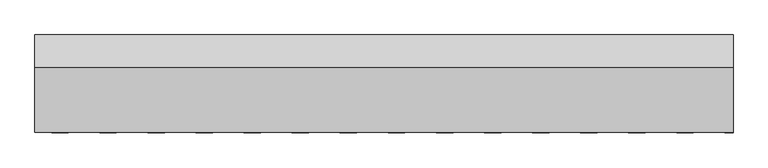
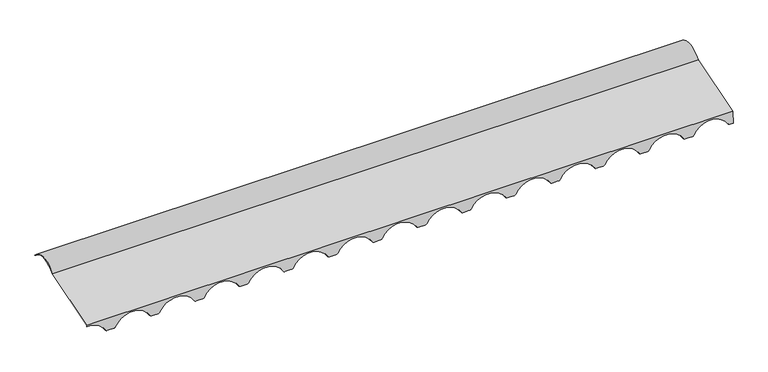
"""IFC4 building model written with IfcOpenShell, lengths in millimetres: proxy geometry, H20.F20.003-B-REMATES TEJA-Cumbrera Troquelada : Cumbrera Troquelada Teja."""

from ifc_helpers import new_model, si_unit, point, frame, origin, place, context, project, spatial, polyline, circle_curve, ellipse_curve, trimmed, source, transform, mapped, element, save
from ifc_brep_helpers import plane_surface, cylinder_surface, revolved_surface, extruded_surface, advanced_brep


def generic_models_877061e0(model_context):
    return source(origin(), model_context, "Body", "AdvancedBrep", [
        advanced_brep(
        [(2500.0, -281.4033726, -80.897882), (2500.0, -57.2523162, -12.3680268), (2500.0, 52.9905575, -6.8731021), (2500.0, 54.2044834, -5.8308046), (2500.0, -58.2444748, -10.9982533), (2500.0, -282.9425462, -79.6953478), (2500.0, -285.2976643, -124.6336769), (2500.0, -283.699857, -124.7174144), (80.0, -281.4033726, -80.897882), (80.0, -57.2523162, -12.3680268), (80.0, 52.9905575, -6.8731021), (80.0, 54.2044834, -5.8308046), (80.0, -58.2444748, -10.9982533), (80.0, -282.9425462, -79.6953478), (80.0, -283.1883269, -84.3851221), (147.7180237, -285.0927503, -120.7236858), (154.6321739, -285.2976643, -124.6336769), (178.6878261, -285.2976643, -124.6336769), (185.6019763, -285.0927503, -120.7236858), (314.3780237, -285.0927503, -120.7236858), (321.2921739, -285.2976643, -124.6336769), (345.3478261, -285.2976643, -124.6336769), (352.2619763, -285.0927503, -120.7236858), (481.0380237, -285.0927503, -120.7236858), (487.9521739, -285.2976643, -124.6336769), (512.0078261, -285.2976643, -124.6336769), (518.9219763, -285.0927503, -120.7236858), (647.6980237, -285.0927503, -120.7236858), (654.6121739, -285.2976643, -124.6336769), (678.6678261, -285.2976643, -124.6336769), (685.5819763, -285.0927503, -120.7236858), (814.3580237, -285.0927503, -120.7236858), (821.2721739, -285.2976643, -124.6336769), (845.3278261, -285.2976643, -124.6336769), (852.2419763, -285.0927503, -120.7236858), (981.0180237, -285.0927503, -120.7236858), (987.9321739, -285.2976643, -124.6336769), (1011.9878261, -285.2976643, -124.6336769), (1018.9019763, -285.0927503, -120.7236858), (1147.6780237, -285.0927503, -120.7236858), (1154.5921739, -285.2976643, -124.6336769), (1178.6478261, -285.2976643, -124.6336769), (1185.5619763, -285.0927503, -120.7236858), (1314.3380237, -285.0927503, -120.7236858), (1321.2521739, -285.2976643, -124.6336769), (1345.3078261, -285.2976643, -124.6336769), (1352.2219763, -285.0927503, -120.7236858), (1480.9980237, -285.0927503, -120.7236858), (1487.9121739, -285.2976643, -124.6336769), (1511.9678261, -285.2976643, -124.6336769), (1518.8819763, -285.0927503, -120.7236858), (1647.6580237, -285.0927503, -120.7236858), (1654.5721739, -285.2976643, -124.6336769), (1678.6278261, -285.2976643, -124.6336769), (1685.5419763, -285.0927503, -120.7236858), (1814.3180237, -285.0927503, -120.7236858), (1821.2321739, -285.2976643, -124.6336769), (1845.2878261, -285.2976643, -124.6336769), (1852.2019763, -285.0927503, -120.7236858), (1980.9780237, -285.0927503, -120.7236858), (1987.8921739, -285.2976643, -124.6336769), (2011.9478261, -285.2976643, -124.6336769), (2018.8619763, -285.0927503, -120.7236858), (2147.6380237, -285.0927503, -120.7236858), (2154.5521739, -285.2976643, -124.6336769), (2178.6078261, -285.2976643, -124.6336769), (2185.5219763, -285.0927503, -120.7236858), (2314.2980237, -285.0927503, -120.7236858), (2321.2121739, -285.2976643, -124.6336769), (2345.2678261, -285.2976643, -124.6336769), (2352.1819763, -285.0927503, -120.7236858), (2480.9580237, -285.0927503, -120.7236858), (2487.8721739, -285.2976643, -124.6336769), (2487.8721739, -283.699857, -124.7174144), (154.6321739, -283.699857, -124.7174144), (178.6878261, -283.699857, -124.7174144), (321.2921739, -283.699857, -124.7174144), (345.3478261, -283.699857, -124.7174144), (487.9521739, -283.699857, -124.7174144), (512.0078261, -283.699857, -124.7174144), (654.6121739, -283.699857, -124.7174144), (678.6678261, -283.699857, -124.7174144), (821.2721739, -283.699857, -124.7174144), (845.3278261, -283.699857, -124.7174144), (987.9321739, -283.699857, -124.7174144), (1011.9878261, -283.699857, -124.7174144), (1154.5921739, -283.699857, -124.7174144), (1178.6478261, -283.699857, -124.7174144), (1321.2521739, -283.699857, -124.7174144), (1345.3078261, -283.699857, -124.7174144), (1487.9121739, -283.699857, -124.7174144), (1511.9678261, -283.699857, -124.7174144), (1654.5721739, -283.699857, -124.7174144), (1678.6278261, -283.699857, -124.7174144), (1821.2321739, -283.699857, -124.7174144), (1845.2878261, -283.699857, -124.7174144), (1987.8921739, -283.699857, -124.7174144), (2011.9478261, -283.699857, -124.7174144), (2154.5521739, -283.699857, -124.7174144), (2178.6078261, -283.699857, -124.7174144), (2321.2121739, -283.699857, -124.7174144), (2345.2678261, -283.699857, -124.7174144), (2480.9580237, -283.494943, -120.8074234), (2352.1819763, -283.494943, -120.8074234), (2314.2980237, -283.494943, -120.8074234), (2185.5219763, -283.494943, -120.8074234), (2147.6380237, -283.494943, -120.8074234), (2018.8619763, -283.494943, -120.8074234), (1980.9780237, -283.494943, -120.8074234), (1852.2019763, -283.494943, -120.8074234), (1814.3180237, -283.494943, -120.8074234), (1685.5419763, -283.494943, -120.8074234), (1647.6580237, -283.494943, -120.8074234), (1518.8819763, -283.494943, -120.8074234), (1480.9980237, -283.494943, -120.8074234), (1352.2219763, -283.494943, -120.8074234), (1314.3380237, -283.494943, -120.8074234), (1185.5619763, -283.494943, -120.8074234), (1147.6780237, -283.494943, -120.8074234), (1018.9019763, -283.494943, -120.8074234), (981.0180237, -283.494943, -120.8074234), (852.2419763, -283.494943, -120.8074234), (814.3580237, -283.494943, -120.8074234), (685.5819763, -283.494943, -120.8074234), (647.6980237, -283.494943, -120.8074234), (518.9219763, -283.494943, -120.8074234), (481.0380237, -283.494943, -120.8074234), (352.2619763, -283.494943, -120.8074234), (314.3780237, -283.494943, -120.8074234), (185.6019763, -283.494943, -120.8074234), (147.7180237, -283.494943, -120.8074234), (80.0, -281.5905196, -84.4688596)],
        [
            (0, 1),
            (1, 2, circle_curve(frame((2500.0, 0.0, -52.3716984), z_axis=(-1.0, 0.0, 0.0), x_axis=(0.0, -1.0, 0.0)), 69.8435498)),
            (2, 3),
            (3, 4, circle_curve(frame((2500.0, 0.0, -52.3716984), z_axis=(1.0, 0.0, 0.0), x_axis=(0.0, -1.0, 0.0)), 71.4435498)),
            (4, 5),
            (5, 6),
            (6, 7),
            (7, 0),
            (0, 8),
            (8, 9),
            (9, 1),
            (9, 10, circle_curve(frame((80.0, 0.0, -52.3716984), z_axis=(-1.0, 0.0, 0.0), x_axis=(0.0, -1.0, 0.0)), 69.8435498)),
            (10, 2),
            (10, 11),
            (11, 3),
            (11, 12, circle_curve(frame((80.0, 0.0, -52.3716984), z_axis=(1.0, 0.0, 0.0), x_axis=(0.0, -1.0, 0.0)), 71.4435498)),
            (12, 4),
            (12, 13),
            (13, 5),
            (13, 14),
            (14, 15, ellipse_curve(frame((83.33, -287.0242829, -157.5795235), z_axis=(0.0, 0.998629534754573, -0.052335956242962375), x_axis=(1.0, 0.0, 0.0)), 74.5, 73.3681776)),
            (15, 16, ellipse_curve(frame((154.6321739, -284.8853374, -116.766012), z_axis=(0.0, -0.998629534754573, 0.052335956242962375), x_axis=(1.0, 0.0, 0.0)), 8.0, 7.878462)),
            (16, 17),
            (17, 18, ellipse_curve(frame((178.6878261, -284.8853374, -116.766012), z_axis=(0.0, -0.998629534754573, 0.052335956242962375), x_axis=(1.0, 0.0, 0.0)), 8.0, 7.878462)),
            (18, 19, ellipse_curve(frame((249.99, -287.0242829, -157.5795235), z_axis=(0.0, 0.998629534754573, -0.052335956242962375), x_axis=(1.0, 0.0, 0.0)), 74.5, 73.3681776)),
            (19, 20, ellipse_curve(frame((321.2921739, -284.8853374, -116.766012), z_axis=(0.0, -0.998629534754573, 0.0523359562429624), x_axis=(1.0, 0.0, 0.0)), 8.0, 7.878462)),
            (20, 21),
            (21, 22, ellipse_curve(frame((345.3478261, -284.8853374, -116.766012), z_axis=(0.0, -0.998629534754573, 0.052335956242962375), x_axis=(1.0, 0.0, 0.0)), 8.0, 7.878462)),
            (22, 23, ellipse_curve(frame((416.65, -287.0242829, -157.5795235), z_axis=(0.0, 0.998629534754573, -0.052335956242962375), x_axis=(1.0, 0.0, 0.0)), 74.5, 73.3681776)),
            (23, 24, ellipse_curve(frame((487.9521739, -284.8853374, -116.766012), z_axis=(0.0, -0.998629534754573, 0.052335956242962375), x_axis=(1.0, 0.0, 0.0)), 8.0, 7.878462)),
            (24, 25),
            (25, 26, ellipse_curve(frame((512.0078261, -284.8853374, -116.766012), z_axis=(0.0, -0.998629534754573, 0.052335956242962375), x_axis=(1.0, 0.0, 0.0)), 8.0, 7.878462)),
            (26, 27, ellipse_curve(frame((583.31, -287.0242829, -157.5795235), z_axis=(0.0, 0.998629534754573, -0.052335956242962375), x_axis=(1.0, 0.0, 0.0)), 74.5, 73.3681776)),
            (27, 28, ellipse_curve(frame((654.6121739, -284.8853374, -116.766012), z_axis=(0.0, -0.998629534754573, 0.052335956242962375), x_axis=(1.0, 0.0, 0.0)), 8.0, 7.878462)),
            (28, 29),
            (29, 30, ellipse_curve(frame((678.6678261, -284.8853374, -116.766012), z_axis=(0.0, -0.998629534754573, 0.052335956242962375), x_axis=(1.0, 0.0, 0.0)), 8.0, 7.878462)),
            (30, 31, ellipse_curve(frame((749.97, -287.0242829, -157.5795235), z_axis=(0.0, 0.998629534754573, -0.052335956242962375), x_axis=(1.0, 0.0, 0.0)), 74.5, 73.3681776)),
            (31, 32, ellipse_curve(frame((821.2721739, -284.8853374, -116.766012), z_axis=(0.0, -0.998629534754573, 0.052335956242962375), x_axis=(1.0, 0.0, 0.0)), 8.0, 7.878462)),
            (32, 33),
            (33, 34, ellipse_curve(frame((845.3278261, -284.8853374, -116.766012), z_axis=(0.0, -0.998629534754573, 0.052335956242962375), x_axis=(1.0, 0.0, 0.0)), 8.0, 7.878462)),
            (34, 35, ellipse_curve(frame((916.63, -287.0242829, -157.5795235), z_axis=(0.0, 0.998629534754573, -0.052335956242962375), x_axis=(1.0, 0.0, 0.0)), 74.5, 73.3681776)),
            (35, 36, ellipse_curve(frame((987.9321739, -284.8853374, -116.766012), z_axis=(0.0, -0.998629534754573, 0.052335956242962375), x_axis=(1.0, 0.0, 0.0)), 8.0, 7.878462)),
            (36, 37),
            (37, 38, ellipse_curve(frame((1011.9878261, -284.8853374, -116.766012), z_axis=(0.0, -0.998629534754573, 0.052335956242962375), x_axis=(1.0, 0.0, 0.0)), 8.0, 7.878462)),
            (38, 39, ellipse_curve(frame((1083.29, -287.0242829, -157.5795235), z_axis=(0.0, 0.998629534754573, -0.0523359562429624), x_axis=(1.0, 0.0, 0.0)), 74.5, 73.3681776)),
            (39, 40, ellipse_curve(frame((1154.5921739, -284.8853374, -116.766012), z_axis=(0.0, -0.998629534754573, 0.052335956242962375), x_axis=(1.0, 0.0, 0.0)), 8.0, 7.878462)),
            (40, 41),
            (41, 42, ellipse_curve(frame((1178.6478261, -284.8853374, -116.766012), z_axis=(0.0, -0.998629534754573, 0.052335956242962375), x_axis=(1.0, 0.0, 0.0)), 8.0, 7.878462)),
            (42, 43, ellipse_curve(frame((1249.95, -287.0242829, -157.5795235), z_axis=(0.0, 0.998629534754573, -0.052335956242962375), x_axis=(1.0, 0.0, 0.0)), 74.5, 73.3681776)),
            (43, 44, ellipse_curve(frame((1321.2521739, -284.8853374, -116.766012), z_axis=(0.0, -0.998629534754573, 0.05233595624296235), x_axis=(1.0, 0.0, 0.0)), 8.0, 7.878462)),
            (44, 45),
            (45, 46, ellipse_curve(frame((1345.3078261, -284.8853374, -116.766012), z_axis=(0.0, -0.998629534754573, 0.052335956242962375), x_axis=(1.0, 0.0, 0.0)), 8.0, 7.878462)),
            (46, 47, ellipse_curve(frame((1416.61, -287.0242829, -157.5795235), z_axis=(0.0, 0.998629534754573, -0.052335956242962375), x_axis=(1.0, 0.0, 0.0)), 74.5, 73.3681776)),
            (47, 48, ellipse_curve(frame((1487.9121739, -284.8853374, -116.766012), z_axis=(0.0, -0.998629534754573, 0.0523359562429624), x_axis=(1.0, 0.0, 0.0)), 8.0, 7.878462)),
            (48, 49),
            (49, 50, ellipse_curve(frame((1511.9678261, -284.8853374, -116.766012), z_axis=(0.0, -0.998629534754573, 0.052335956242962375), x_axis=(1.0, 0.0, 0.0)), 8.0, 7.878462)),
            (50, 51, ellipse_curve(frame((1583.27, -287.0242829, -157.5795235), z_axis=(0.0, 0.998629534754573, -0.052335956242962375), x_axis=(1.0, 0.0, 0.0)), 74.5, 73.3681776)),
            (51, 52, ellipse_curve(frame((1654.5721739, -284.8853374, -116.766012), z_axis=(0.0, -0.998629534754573, 0.052335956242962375), x_axis=(1.0, 0.0, 0.0)), 8.0, 7.878462)),
            (52, 53),
            (53, 54, ellipse_curve(frame((1678.6278261, -284.8853374, -116.766012), z_axis=(0.0, -0.998629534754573, 0.052335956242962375), x_axis=(1.0, 0.0, 0.0)), 8.0, 7.878462)),
            (54, 55, ellipse_curve(frame((1749.93, -287.0242829, -157.5795235), z_axis=(0.0, 0.998629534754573, -0.052335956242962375), x_axis=(1.0, 0.0, 0.0)), 74.5, 73.3681776)),
            (55, 56, ellipse_curve(frame((1821.2321739, -284.8853374, -116.766012), z_axis=(0.0, -0.998629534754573, 0.052335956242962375), x_axis=(1.0, 0.0, 0.0)), 8.0, 7.878462)),
            (56, 57),
            (57, 58, ellipse_curve(frame((1845.2878261, -284.8853374, -116.766012), z_axis=(0.0, -0.998629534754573, 0.05233595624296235), x_axis=(1.0, 0.0, 0.0)), 8.0, 7.878462)),
            (58, 59, ellipse_curve(frame((1916.59, -287.0242829, -157.5795235), z_axis=(0.0, 0.998629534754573, -0.052335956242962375), x_axis=(1.0, 0.0, 0.0)), 74.5, 73.3681776)),
            (59, 60, ellipse_curve(frame((1987.8921739, -284.8853374, -116.766012), z_axis=(0.0, -0.998629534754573, 0.05233595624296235), x_axis=(1.0, 0.0, 0.0)), 8.0, 7.878462)),
            (60, 61),
            (61, 62, ellipse_curve(frame((2011.9478261, -284.8853374, -116.766012), z_axis=(0.0, -0.998629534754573, 0.052335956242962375), x_axis=(1.0, 0.0, 0.0)), 8.0, 7.878462)),
            (62, 63, ellipse_curve(frame((2083.25, -287.0242829, -157.5795235), z_axis=(0.0, 0.998629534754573, -0.052335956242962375), x_axis=(1.0, 0.0, 0.0)), 74.5, 73.3681776)),
            (63, 64, ellipse_curve(frame((2154.5521739, -284.8853374, -116.766012), z_axis=(0.0, -0.998629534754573, 0.0523359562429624), x_axis=(1.0, 0.0, 0.0)), 8.0, 7.878462)),
            (64, 65),
            (65, 66, ellipse_curve(frame((2178.6078261, -284.8853374, -116.766012), z_axis=(0.0, -0.998629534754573, 0.052335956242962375), x_axis=(1.0, 0.0, 0.0)), 8.0, 7.878462)),
            (66, 67, ellipse_curve(frame((2249.91, -287.0242829, -157.5795235), z_axis=(0.0, 0.998629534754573, -0.052335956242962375), x_axis=(1.0, 0.0, 0.0)), 74.5, 73.3681776)),
            (67, 68, ellipse_curve(frame((2321.2121739, -284.8853374, -116.766012), z_axis=(0.0, -0.998629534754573, 0.052335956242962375), x_axis=(1.0, 0.0, 0.0)), 8.0, 7.878462)),
            (68, 69),
            (69, 70, ellipse_curve(frame((2345.2678261, -284.8853374, -116.766012), z_axis=(0.0, -0.998629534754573, 0.052335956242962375), x_axis=(1.0, 0.0, 0.0)), 8.0, 7.878462)),
            (70, 71, ellipse_curve(frame((2416.57, -287.0242829, -157.5795235), z_axis=(0.0, 0.998629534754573, -0.052335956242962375), x_axis=(1.0, 0.0, 0.0)), 74.5, 73.3681776)),
            (71, 72, ellipse_curve(frame((2487.8721739, -284.8853374, -116.766012), z_axis=(0.0, -0.998629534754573, 0.052335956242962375), x_axis=(1.0, 0.0, 0.0)), 8.0, 7.878462)),
            (72, 6),
            (72, 73),
            (73, 7),
            (16, 74),
            (74, 75),
            (75, 17),
            (20, 76),
            (76, 77),
            (77, 21),
            (24, 78),
            (78, 79),
            (79, 25),
            (28, 80),
            (80, 81),
            (81, 29),
            (32, 82),
            (82, 83),
            (83, 33),
            (36, 84),
            (84, 85),
            (85, 37),
            (40, 86),
            (86, 87),
            (87, 41),
            (44, 88),
            (88, 89),
            (89, 45),
            (48, 90),
            (90, 91),
            (91, 49),
            (52, 92),
            (92, 93),
            (93, 53),
            (56, 94),
            (94, 95),
            (95, 57),
            (60, 96),
            (96, 97),
            (97, 61),
            (64, 98),
            (98, 99),
            (99, 65),
            (68, 100),
            (100, 101),
            (101, 69),
            (73, 102, ellipse_curve(frame((2487.8721739, -283.2875302, -116.8497495), z_axis=(0.0, 0.998629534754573, -0.052335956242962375), x_axis=(1.0, 0.0, 0.0)), 8.0, 7.878462)),
            (102, 103, ellipse_curve(frame((2416.57, -285.4264757, -157.663261), z_axis=(0.0, -0.998629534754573, 0.052335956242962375), x_axis=(1.0, 0.0, 0.0)), 74.5, 73.3681776)),
            (103, 101, ellipse_curve(frame((2345.2678261, -283.2875302, -116.8497495), z_axis=(0.0, 0.998629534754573, -0.052335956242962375), x_axis=(1.0, 0.0, 0.0)), 8.0, 7.878462)),
            (100, 104, ellipse_curve(frame((2321.2121739, -283.2875302, -116.8497495), z_axis=(0.0, 0.998629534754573, -0.052335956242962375), x_axis=(1.0, 0.0, 0.0)), 8.0, 7.878462)),
            (104, 105, ellipse_curve(frame((2249.91, -285.4264757, -157.663261), z_axis=(0.0, -0.998629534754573, 0.052335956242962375), x_axis=(1.0, 0.0, 0.0)), 74.5, 73.3681776)),
            (105, 99, ellipse_curve(frame((2178.6078261, -283.2875302, -116.8497495), z_axis=(0.0, 0.998629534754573, -0.052335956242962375), x_axis=(1.0, 0.0, 0.0)), 8.0, 7.878462)),
            (98, 106, ellipse_curve(frame((2154.5521739, -283.2875302, -116.8497495), z_axis=(0.0, 0.998629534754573, -0.0523359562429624), x_axis=(1.0, 0.0, 0.0)), 8.0, 7.878462)),
            (106, 107, ellipse_curve(frame((2083.25, -285.4264757, -157.663261), z_axis=(0.0, -0.998629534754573, 0.052335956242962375), x_axis=(1.0, 0.0, 0.0)), 74.5, 73.3681776)),
            (107, 97, ellipse_curve(frame((2011.9478261, -283.2875302, -116.8497495), z_axis=(0.0, 0.998629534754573, -0.052335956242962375), x_axis=(1.0, 0.0, 0.0)), 8.0, 7.878462)),
            (96, 108, ellipse_curve(frame((1987.8921739, -283.2875302, -116.8497495), z_axis=(0.0, 0.998629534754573, -0.05233595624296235), x_axis=(1.0, 0.0, 0.0)), 8.0, 7.878462)),
            (108, 109, ellipse_curve(frame((1916.59, -285.4264757, -157.663261), z_axis=(0.0, -0.998629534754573, 0.052335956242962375), x_axis=(1.0, 0.0, 0.0)), 74.5, 73.3681776)),
            (109, 95, ellipse_curve(frame((1845.2878261, -283.2875302, -116.8497495), z_axis=(0.0, 0.998629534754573, -0.05233595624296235), x_axis=(1.0, 0.0, 0.0)), 8.0, 7.878462)),
            (94, 110, ellipse_curve(frame((1821.2321739, -283.2875302, -116.8497495), z_axis=(0.0, 0.998629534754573, -0.052335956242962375), x_axis=(1.0, 0.0, 0.0)), 8.0, 7.878462)),
            (110, 111, ellipse_curve(frame((1749.93, -285.4264757, -157.663261), z_axis=(0.0, -0.998629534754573, 0.052335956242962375), x_axis=(1.0, 0.0, 0.0)), 74.5, 73.3681776)),
            (111, 93, ellipse_curve(frame((1678.6278261, -283.2875302, -116.8497495), z_axis=(0.0, 0.998629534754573, -0.052335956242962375), x_axis=(1.0, 0.0, 0.0)), 8.0, 7.878462)),
            (92, 112, ellipse_curve(frame((1654.5721739, -283.2875302, -116.8497495), z_axis=(0.0, 0.998629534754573, -0.052335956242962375), x_axis=(1.0, 0.0, 0.0)), 8.0, 7.878462)),
            (112, 113, ellipse_curve(frame((1583.27, -285.4264757, -157.663261), z_axis=(0.0, -0.998629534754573, 0.052335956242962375), x_axis=(1.0, 0.0, 0.0)), 74.5, 73.3681776)),
            (113, 91, ellipse_curve(frame((1511.9678261, -283.2875302, -116.8497495), z_axis=(0.0, 0.998629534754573, -0.052335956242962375), x_axis=(1.0, 0.0, 0.0)), 8.0, 7.878462)),
            (90, 114, ellipse_curve(frame((1487.9121739, -283.2875302, -116.8497495), z_axis=(0.0, 0.998629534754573, -0.0523359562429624), x_axis=(1.0, 0.0, 0.0)), 8.0, 7.878462)),
            (114, 115, ellipse_curve(frame((1416.61, -285.4264757, -157.663261), z_axis=(0.0, -0.998629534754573, 0.052335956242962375), x_axis=(1.0, 0.0, 0.0)), 74.5, 73.3681776)),
            (115, 89, ellipse_curve(frame((1345.3078261, -283.2875302, -116.8497495), z_axis=(0.0, 0.998629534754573, -0.052335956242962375), x_axis=(1.0, 0.0, 0.0)), 8.0, 7.878462)),
            (88, 116, ellipse_curve(frame((1321.2521739, -283.2875302, -116.8497495), z_axis=(0.0, 0.998629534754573, -0.05233595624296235), x_axis=(1.0, 0.0, 0.0)), 8.0, 7.878462)),
            (116, 117, ellipse_curve(frame((1249.95, -285.4264757, -157.663261), z_axis=(0.0, -0.998629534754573, 0.052335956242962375), x_axis=(1.0, 0.0, 0.0)), 74.5, 73.3681776)),
            (117, 87, ellipse_curve(frame((1178.6478261, -283.2875302, -116.8497495), z_axis=(0.0, 0.998629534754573, -0.052335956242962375), x_axis=(1.0, 0.0, 0.0)), 8.0, 7.878462)),
            (86, 118, ellipse_curve(frame((1154.5921739, -283.2875302, -116.8497495), z_axis=(0.0, 0.998629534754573, -0.052335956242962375), x_axis=(1.0, 0.0, 0.0)), 8.0, 7.878462)),
            (118, 119, ellipse_curve(frame((1083.29, -285.4264757, -157.663261), z_axis=(0.0, -0.998629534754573, 0.0523359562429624), x_axis=(1.0, 0.0, 0.0)), 74.5, 73.3681776)),
            (119, 85, ellipse_curve(frame((1011.9878261, -283.2875302, -116.8497495), z_axis=(0.0, 0.998629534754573, -0.052335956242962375), x_axis=(1.0, 0.0, 0.0)), 8.0, 7.878462)),
            (84, 120, ellipse_curve(frame((987.9321739, -283.2875302, -116.8497495), z_axis=(0.0, 0.998629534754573, -0.052335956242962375), x_axis=(1.0, 0.0, 0.0)), 8.0, 7.878462)),
            (120, 121, ellipse_curve(frame((916.63, -285.4264757, -157.663261), z_axis=(0.0, -0.998629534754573, 0.052335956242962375), x_axis=(1.0, 0.0, 0.0)), 74.5, 73.3681776)),
            (121, 83, ellipse_curve(frame((845.3278261, -283.2875302, -116.8497495), z_axis=(0.0, 0.998629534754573, -0.052335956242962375), x_axis=(1.0, 0.0, 0.0)), 8.0, 7.878462)),
            (82, 122, ellipse_curve(frame((821.2721739, -283.2875302, -116.8497495), z_axis=(0.0, 0.998629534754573, -0.052335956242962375), x_axis=(1.0, 0.0, 0.0)), 8.0, 7.878462)),
            (122, 123, ellipse_curve(frame((749.97, -285.4264757, -157.663261), z_axis=(0.0, -0.998629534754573, 0.052335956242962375), x_axis=(1.0, 0.0, 0.0)), 74.5, 73.3681776)),
            (123, 81, ellipse_curve(frame((678.6678261, -283.2875302, -116.8497495), z_axis=(0.0, 0.998629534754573, -0.052335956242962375), x_axis=(1.0, 0.0, 0.0)), 8.0, 7.878462)),
            (80, 124, ellipse_curve(frame((654.6121739, -283.2875302, -116.8497495), z_axis=(0.0, 0.998629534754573, -0.052335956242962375), x_axis=(1.0, 0.0, 0.0)), 8.0, 7.878462)),
            (124, 125, ellipse_curve(frame((583.31, -285.4264757, -157.663261), z_axis=(0.0, -0.998629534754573, 0.052335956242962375), x_axis=(1.0, 0.0, 0.0)), 74.5, 73.3681776)),
            (125, 79, ellipse_curve(frame((512.0078261, -283.2875302, -116.8497495), z_axis=(0.0, 0.998629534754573, -0.052335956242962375), x_axis=(1.0, 0.0, 0.0)), 8.0, 7.878462)),
            (78, 126, ellipse_curve(frame((487.9521739, -283.2875302, -116.8497495), z_axis=(0.0, 0.998629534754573, -0.052335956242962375), x_axis=(1.0, 0.0, 0.0)), 8.0, 7.878462)),
            (126, 127, ellipse_curve(frame((416.65, -285.4264757, -157.663261), z_axis=(0.0, -0.998629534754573, 0.052335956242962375), x_axis=(1.0, 0.0, 0.0)), 74.5, 73.3681776)),
            (127, 77, ellipse_curve(frame((345.3478261, -283.2875302, -116.8497495), z_axis=(0.0, 0.998629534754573, -0.052335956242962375), x_axis=(1.0, 0.0, 0.0)), 8.0, 7.878462)),
            (76, 128, ellipse_curve(frame((321.2921739, -283.2875302, -116.8497495), z_axis=(0.0, 0.998629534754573, -0.0523359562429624), x_axis=(1.0, 0.0, 0.0)), 8.0, 7.878462)),
            (128, 129, ellipse_curve(frame((249.99, -285.4264757, -157.663261), z_axis=(0.0, -0.998629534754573, 0.052335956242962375), x_axis=(1.0, 0.0, 0.0)), 74.5, 73.3681776)),
            (129, 75, ellipse_curve(frame((178.6878261, -283.2875302, -116.8497495), z_axis=(0.0, 0.998629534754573, -0.052335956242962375), x_axis=(1.0, 0.0, 0.0)), 8.0, 7.878462)),
            (74, 130, ellipse_curve(frame((154.6321739, -283.2875302, -116.8497495), z_axis=(0.0, 0.998629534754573, -0.052335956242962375), x_axis=(1.0, 0.0, 0.0)), 8.0, 7.878462)),
            (130, 131, ellipse_curve(frame((83.33, -285.4264757, -157.663261), z_axis=(0.0, -0.998629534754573, 0.052335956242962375), x_axis=(1.0, 0.0, 0.0)), 74.5, 73.3681776)),
            (131, 8),
            (130, 15),
            (14, 131),
            (129, 18),
            (128, 19),
            (127, 22),
            (126, 23),
            (125, 26),
            (124, 27),
            (123, 30),
            (122, 31),
            (121, 34),
            (120, 35),
            (119, 38),
            (118, 39),
            (117, 42),
            (116, 43),
            (115, 46),
            (114, 47),
            (113, 50),
            (112, 51),
            (111, 54),
            (110, 55),
            (109, 58),
            (108, 59),
            (107, 62),
            (106, 63),
            (105, 66),
            (104, 67),
            (103, 70),
            (102, 71),
        ],
        [
            plane_surface(frame((2500.0, 0.0, 0.0), z_axis=(1.0, 0.0, 0.0), x_axis=(0.0, 0.0, 1.0))),
            plane_surface(frame((2500.0, -281.4033726, -80.897882), z_axis=(0.0, 0.2923717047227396, -0.9563047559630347), x_axis=(-1.0, 0.0, 0.0))),
            revolved_surface(polyline([(80.0, -69.8435498, -52.3716984), (2500.0, -69.8435498, -52.3716984)]), (2500.0, 0.0, -52.3716984), (-1.0, 0.0, 0.0)),
            plane_surface(frame((2500.0, 52.9905575, -6.8731021), z_axis=(0.0, 0.6514359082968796, -0.7587036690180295), x_axis=(-1.0, 0.0, 0.0))),
            cylinder_surface(frame((2500.0, 0.0, -52.3716984), z_axis=(1.0, 0.0, 0.0), x_axis=(0.0, -1.0, 0.0)), 71.4435498),
            plane_surface(frame((2500.0, -58.2444748, -10.9982533), z_axis=(0.0, -0.2923717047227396, 0.9563047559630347), x_axis=(-1.0, 0.0, 0.0))),
            plane_surface(frame((2500.0, -282.9425462, -79.6953478), z_axis=(0.0, -0.998629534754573, 0.05233595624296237), x_axis=(-1.0, 0.0, 0.0))),
            plane_surface(frame((2500.0, -285.2976643, -124.6336769), z_axis=(0.0, -0.05233595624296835, -0.9986295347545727), x_axis=(-1.0, 0.0, 0.0))),
            plane_surface(frame((2500.0, -283.699857, -124.7174144), z_axis=(0.0, 0.9986295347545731, -0.05233595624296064), x_axis=(-1.0, 0.0, 0.0))),
            extruded_surface(trimmed(ellipse_curve(frame((83.33, -287.0242829, -157.5795235), z_axis=(0.0, 0.998629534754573, -0.052335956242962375), x_axis=(1.0, 0.0, 0.0)), 74.5, 73.3681776), [point((18.9419763, -285.0927503, -120.7236858))], [point((147.7180237, -285.0927503, -120.7236858))], True, "CARTESIAN"), (0.0, -1.997259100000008, 0.1046718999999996), 2.0000000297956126),
            extruded_surface(trimmed(ellipse_curve(frame((154.6321739, -284.8853374, -116.766012), z_axis=(0.0, -0.998629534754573, 0.052335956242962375), x_axis=(1.0, 0.0, 0.0)), 8.0, 7.878462), [point((147.7180237, -285.0927503, -120.7236858))], [point((154.6321739, -285.2976643, -124.6336769))], True, "CARTESIAN"), (0.0, -1.997259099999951, 0.1046718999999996), 2.000000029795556),
            extruded_surface(trimmed(ellipse_curve(frame((178.6878261, -284.8853374, -116.766012), z_axis=(0.0, -0.998629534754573, 0.052335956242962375), x_axis=(1.0, 0.0, 0.0)), 8.0, 7.878462), [point((178.6878261, -285.2976643, -124.6336769))], [point((185.6019763, -285.0927503, -120.7236858))], True, "CARTESIAN"), (0.0, -1.997259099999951, 0.1046718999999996), 2.000000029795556),
            extruded_surface(trimmed(ellipse_curve(frame((249.99, -287.0242829, -157.5795235), z_axis=(0.0, 0.998629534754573, -0.052335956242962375), x_axis=(1.0, 0.0, 0.0)), 74.5, 73.3681776), [point((185.6019763, -285.0927503, -120.7236858))], [point((314.3780237, -285.0927503, -120.7236858))], True, "CARTESIAN"), (0.0, -1.997259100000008, 0.1046718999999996), 2.0000000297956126),
            extruded_surface(trimmed(ellipse_curve(frame((321.2921739, -284.8853374, -116.766012), z_axis=(0.0, -0.998629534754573, 0.0523359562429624), x_axis=(1.0, 0.0, 0.0)), 8.0, 7.878462), [point((314.3780237, -285.0927503, -120.7236858))], [point((321.2921739, -285.2976643, -124.6336769))], True, "CARTESIAN"), (0.0, -1.997259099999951, 0.1046718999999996), 2.000000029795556),
            extruded_surface(trimmed(ellipse_curve(frame((345.3478261, -284.8853374, -116.766012), z_axis=(0.0, -0.998629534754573, 0.052335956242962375), x_axis=(1.0, 0.0, 0.0)), 8.0, 7.878462), [point((345.3478261, -285.2976643, -124.6336769))], [point((352.2619763, -285.0927503, -120.7236858))], True, "CARTESIAN"), (0.0, -1.997259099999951, 0.1046718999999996), 2.000000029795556),
            extruded_surface(trimmed(ellipse_curve(frame((416.65, -287.0242829, -157.5795235), z_axis=(0.0, 0.998629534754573, -0.052335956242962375), x_axis=(1.0, 0.0, 0.0)), 74.5, 73.3681776), [point((352.2619763, -285.0927503, -120.7236858))], [point((481.0380237, -285.0927503, -120.7236858))], True, "CARTESIAN"), (0.0, -1.997259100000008, 0.1046718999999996), 2.0000000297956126),
            extruded_surface(trimmed(ellipse_curve(frame((487.9521739, -284.8853374, -116.766012), z_axis=(0.0, -0.998629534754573, 0.052335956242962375), x_axis=(1.0, 0.0, 0.0)), 8.0, 7.878462), [point((481.0380237, -285.0927503, -120.7236858))], [point((487.9521739, -285.2976643, -124.6336769))], True, "CARTESIAN"), (0.0, -1.997259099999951, 0.1046718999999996), 2.000000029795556),
            extruded_surface(trimmed(ellipse_curve(frame((512.0078261, -284.8853374, -116.766012), z_axis=(0.0, -0.998629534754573, 0.052335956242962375), x_axis=(1.0, 0.0, 0.0)), 8.0, 7.878462), [point((512.0078261, -285.2976643, -124.6336769))], [point((518.9219763, -285.0927503, -120.7236858))], True, "CARTESIAN"), (0.0, -1.997259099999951, 0.1046718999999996), 2.000000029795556),
            extruded_surface(trimmed(ellipse_curve(frame((583.31, -287.0242829, -157.5795235), z_axis=(0.0, 0.998629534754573, -0.052335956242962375), x_axis=(1.0, 0.0, 0.0)), 74.5, 73.3681776), [point((518.9219763, -285.0927503, -120.7236858))], [point((647.6980237, -285.0927503, -120.7236858))], True, "CARTESIAN"), (0.0, -1.997259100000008, 0.1046718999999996), 2.0000000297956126),
            extruded_surface(trimmed(ellipse_curve(frame((654.6121739, -284.8853374, -116.766012), z_axis=(0.0, -0.998629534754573, 0.052335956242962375), x_axis=(1.0, 0.0, 0.0)), 8.0, 7.878462), [point((647.6980237, -285.0927503, -120.7236858))], [point((654.6121739, -285.2976643, -124.6336769))], True, "CARTESIAN"), (0.0, -1.997259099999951, 0.1046718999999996), 2.000000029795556),
            extruded_surface(trimmed(ellipse_curve(frame((678.6678261, -284.8853374, -116.766012), z_axis=(0.0, -0.998629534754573, 0.052335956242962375), x_axis=(1.0, 0.0, 0.0)), 8.0, 7.878462), [point((678.6678261, -285.2976643, -124.6336769))], [point((685.5819763, -285.0927503, -120.7236858))], True, "CARTESIAN"), (0.0, -1.997259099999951, 0.1046718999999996), 2.000000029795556),
            extruded_surface(trimmed(ellipse_curve(frame((749.97, -287.0242829, -157.5795235), z_axis=(0.0, 0.998629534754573, -0.052335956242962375), x_axis=(1.0, 0.0, 0.0)), 74.5, 73.3681776), [point((685.5819763, -285.0927503, -120.7236858))], [point((814.3580237, -285.0927503, -120.7236858))], True, "CARTESIAN"), (0.0, -1.997259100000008, 0.1046718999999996), 2.0000000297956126),
            extruded_surface(trimmed(ellipse_curve(frame((821.2721739, -284.8853374, -116.766012), z_axis=(0.0, -0.998629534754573, 0.052335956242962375), x_axis=(1.0, 0.0, 0.0)), 8.0, 7.878462), [point((814.3580237, -285.0927503, -120.7236858))], [point((821.2721739, -285.2976643, -124.6336769))], True, "CARTESIAN"), (0.0, -1.997259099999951, 0.1046718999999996), 2.000000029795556),
            extruded_surface(trimmed(ellipse_curve(frame((845.3278261, -284.8853374, -116.766012), z_axis=(0.0, -0.998629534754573, 0.052335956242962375), x_axis=(1.0, 0.0, 0.0)), 8.0, 7.878462), [point((845.3278261, -285.2976643, -124.6336769))], [point((852.2419763, -285.0927503, -120.7236858))], True, "CARTESIAN"), (0.0, -1.997259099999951, 0.1046718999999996), 2.000000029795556),
            extruded_surface(trimmed(ellipse_curve(frame((916.63, -287.0242829, -157.5795235), z_axis=(0.0, 0.998629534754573, -0.052335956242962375), x_axis=(1.0, 0.0, 0.0)), 74.5, 73.3681776), [point((852.2419763, -285.0927503, -120.7236858))], [point((981.0180237, -285.0927503, -120.7236858))], True, "CARTESIAN"), (0.0, -1.997259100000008, 0.1046718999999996), 2.0000000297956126),
            extruded_surface(trimmed(ellipse_curve(frame((987.9321739, -284.8853374, -116.766012), z_axis=(0.0, -0.998629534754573, 0.052335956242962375), x_axis=(1.0, 0.0, 0.0)), 8.0, 7.878462), [point((981.0180237, -285.0927503, -120.7236858))], [point((987.9321739, -285.2976643, -124.6336769))], True, "CARTESIAN"), (0.0, -1.997259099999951, 0.1046718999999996), 2.000000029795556),
            extruded_surface(trimmed(ellipse_curve(frame((1011.9878261, -284.8853374, -116.766012), z_axis=(0.0, -0.998629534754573, 0.052335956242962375), x_axis=(1.0, 0.0, 0.0)), 8.0, 7.878462), [point((1011.9878261, -285.2976643, -124.6336769))], [point((1018.9019763, -285.0927503, -120.7236858))], True, "CARTESIAN"), (0.0, -1.997259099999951, 0.1046718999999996), 2.000000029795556),
            extruded_surface(trimmed(ellipse_curve(frame((1083.29, -287.0242829, -157.5795235), z_axis=(0.0, 0.998629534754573, -0.0523359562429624), x_axis=(1.0, 0.0, 0.0)), 74.5, 73.3681776), [point((1018.9019763, -285.0927503, -120.7236858))], [point((1147.6780237, -285.0927503, -120.7236858))], True, "CARTESIAN"), (0.0, -1.997259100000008, 0.1046718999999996), 2.0000000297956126),
            extruded_surface(trimmed(ellipse_curve(frame((1154.5921739, -284.8853374, -116.766012), z_axis=(0.0, -0.998629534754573, 0.052335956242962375), x_axis=(1.0, 0.0, 0.0)), 8.0, 7.878462), [point((1147.6780237, -285.0927503, -120.7236858))], [point((1154.5921739, -285.2976643, -124.6336769))], True, "CARTESIAN"), (0.0, -1.997259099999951, 0.1046718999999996), 2.000000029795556),
            extruded_surface(trimmed(ellipse_curve(frame((1178.6478261, -284.8853374, -116.766012), z_axis=(0.0, -0.998629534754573, 0.052335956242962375), x_axis=(1.0, 0.0, 0.0)), 8.0, 7.878462), [point((1178.6478261, -285.2976643, -124.6336769))], [point((1185.5619763, -285.0927503, -120.7236858))], True, "CARTESIAN"), (0.0, -1.997259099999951, 0.1046718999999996), 2.000000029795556),
            extruded_surface(trimmed(ellipse_curve(frame((1249.95, -287.0242829, -157.5795235), z_axis=(0.0, 0.998629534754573, -0.052335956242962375), x_axis=(1.0, 0.0, 0.0)), 74.5, 73.3681776), [point((1185.5619763, -285.0927503, -120.7236858))], [point((1314.3380237, -285.0927503, -120.7236858))], True, "CARTESIAN"), (0.0, -1.997259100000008, 0.1046718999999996), 2.0000000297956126),
            extruded_surface(trimmed(ellipse_curve(frame((1321.2521739, -284.8853374, -116.766012), z_axis=(0.0, -0.998629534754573, 0.05233595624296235), x_axis=(1.0, 0.0, 0.0)), 8.0, 7.878462), [point((1314.3380237, -285.0927503, -120.7236858))], [point((1321.2521739, -285.2976643, -124.6336769))], True, "CARTESIAN"), (0.0, -1.997259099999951, 0.1046718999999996), 2.000000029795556),
            extruded_surface(trimmed(ellipse_curve(frame((1345.3078261, -284.8853374, -116.766012), z_axis=(0.0, -0.998629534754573, 0.052335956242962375), x_axis=(1.0, 0.0, 0.0)), 8.0, 7.878462), [point((1345.3078261, -285.2976643, -124.6336769))], [point((1352.2219763, -285.0927503, -120.7236858))], True, "CARTESIAN"), (0.0, -1.997259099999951, 0.1046718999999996), 2.000000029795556),
            extruded_surface(trimmed(ellipse_curve(frame((1416.61, -287.0242829, -157.5795235), z_axis=(0.0, 0.998629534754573, -0.052335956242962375), x_axis=(1.0, 0.0, 0.0)), 74.5, 73.3681776), [point((1352.2219763, -285.0927503, -120.7236858))], [point((1480.9980237, -285.0927503, -120.7236858))], True, "CARTESIAN"), (0.0, -1.997259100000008, 0.1046718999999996), 2.0000000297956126),
            extruded_surface(trimmed(ellipse_curve(frame((1487.9121739, -284.8853374, -116.766012), z_axis=(0.0, -0.998629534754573, 0.0523359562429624), x_axis=(1.0, 0.0, 0.0)), 8.0, 7.878462), [point((1480.9980237, -285.0927503, -120.7236858))], [point((1487.9121739, -285.2976643, -124.6336769))], True, "CARTESIAN"), (0.0, -1.997259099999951, 0.1046718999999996), 2.000000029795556),
            extruded_surface(trimmed(ellipse_curve(frame((1511.9678261, -284.8853374, -116.766012), z_axis=(0.0, -0.998629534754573, 0.052335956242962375), x_axis=(1.0, 0.0, 0.0)), 8.0, 7.878462), [point((1511.9678261, -285.2976643, -124.6336769))], [point((1518.8819763, -285.0927503, -120.7236858))], True, "CARTESIAN"), (0.0, -1.997259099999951, 0.1046718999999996), 2.000000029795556),
            extruded_surface(trimmed(ellipse_curve(frame((1583.27, -287.0242829, -157.5795235), z_axis=(0.0, 0.998629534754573, -0.052335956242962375), x_axis=(1.0, 0.0, 0.0)), 74.5, 73.3681776), [point((1518.8819763, -285.0927503, -120.7236858))], [point((1647.6580237, -285.0927503, -120.7236858))], True, "CARTESIAN"), (0.0, -1.997259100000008, 0.1046718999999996), 2.0000000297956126),
            extruded_surface(trimmed(ellipse_curve(frame((1654.5721739, -284.8853374, -116.766012), z_axis=(0.0, -0.998629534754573, 0.052335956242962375), x_axis=(1.0, 0.0, 0.0)), 8.0, 7.878462), [point((1647.6580237, -285.0927503, -120.7236858))], [point((1654.5721739, -285.2976643, -124.6336769))], True, "CARTESIAN"), (0.0, -1.997259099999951, 0.1046718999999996), 2.000000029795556),
            extruded_surface(trimmed(ellipse_curve(frame((1678.6278261, -284.8853374, -116.766012), z_axis=(0.0, -0.998629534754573, 0.052335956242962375), x_axis=(1.0, 0.0, 0.0)), 8.0, 7.878462), [point((1678.6278261, -285.2976643, -124.6336769))], [point((1685.5419763, -285.0927503, -120.7236858))], True, "CARTESIAN"), (0.0, -1.997259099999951, 0.1046718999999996), 2.000000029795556),
            extruded_surface(trimmed(ellipse_curve(frame((1749.93, -287.0242829, -157.5795235), z_axis=(0.0, 0.998629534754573, -0.052335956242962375), x_axis=(1.0, 0.0, 0.0)), 74.5, 73.3681776), [point((1685.5419763, -285.0927503, -120.7236858))], [point((1814.3180237, -285.0927503, -120.7236858))], True, "CARTESIAN"), (0.0, -1.997259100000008, 0.1046718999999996), 2.0000000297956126),
            extruded_surface(trimmed(ellipse_curve(frame((1821.2321739, -284.8853374, -116.766012), z_axis=(0.0, -0.998629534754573, 0.052335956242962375), x_axis=(1.0, 0.0, 0.0)), 8.0, 7.878462), [point((1814.3180237, -285.0927503, -120.7236858))], [point((1821.2321739, -285.2976643, -124.6336769))], True, "CARTESIAN"), (0.0, -1.997259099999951, 0.1046718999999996), 2.000000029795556),
            extruded_surface(trimmed(ellipse_curve(frame((1845.2878261, -284.8853374, -116.766012), z_axis=(0.0, -0.998629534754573, 0.05233595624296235), x_axis=(1.0, 0.0, 0.0)), 8.0, 7.878462), [point((1845.2878261, -285.2976643, -124.6336769))], [point((1852.2019763, -285.0927503, -120.7236858))], True, "CARTESIAN"), (0.0, -1.997259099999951, 0.1046718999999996), 2.000000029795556),
            extruded_surface(trimmed(ellipse_curve(frame((1916.59, -287.0242829, -157.5795235), z_axis=(0.0, 0.998629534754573, -0.052335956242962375), x_axis=(1.0, 0.0, 0.0)), 74.5, 73.3681776), [point((1852.2019763, -285.0927503, -120.7236858))], [point((1980.9780237, -285.0927503, -120.7236858))], True, "CARTESIAN"), (0.0, -1.997259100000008, 0.1046718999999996), 2.0000000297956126),
            extruded_surface(trimmed(ellipse_curve(frame((1987.8921739, -284.8853374, -116.766012), z_axis=(0.0, -0.998629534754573, 0.05233595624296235), x_axis=(1.0, 0.0, 0.0)), 8.0, 7.878462), [point((1980.9780237, -285.0927503, -120.7236858))], [point((1987.8921739, -285.2976643, -124.6336769))], True, "CARTESIAN"), (0.0, -1.997259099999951, 0.1046718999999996), 2.000000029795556),
            extruded_surface(trimmed(ellipse_curve(frame((2011.9478261, -284.8853374, -116.766012), z_axis=(0.0, -0.998629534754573, 0.052335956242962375), x_axis=(1.0, 0.0, 0.0)), 8.0, 7.878462), [point((2011.9478261, -285.2976643, -124.6336769))], [point((2018.8619763, -285.0927503, -120.7236858))], True, "CARTESIAN"), (0.0, -1.997259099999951, 0.1046718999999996), 2.000000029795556),
            extruded_surface(trimmed(ellipse_curve(frame((2083.25, -287.0242829, -157.5795235), z_axis=(0.0, 0.998629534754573, -0.052335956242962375), x_axis=(1.0, 0.0, 0.0)), 74.5, 73.3681776), [point((2018.8619763, -285.0927503, -120.7236858))], [point((2147.6380237, -285.0927503, -120.7236858))], True, "CARTESIAN"), (0.0, -1.997259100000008, 0.1046718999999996), 2.0000000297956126),
            extruded_surface(trimmed(ellipse_curve(frame((2154.5521739, -284.8853374, -116.766012), z_axis=(0.0, -0.998629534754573, 0.0523359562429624), x_axis=(1.0, 0.0, 0.0)), 8.0, 7.878462), [point((2147.6380237, -285.0927503, -120.7236858))], [point((2154.5521739, -285.2976643, -124.6336769))], True, "CARTESIAN"), (0.0, -1.997259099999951, 0.1046718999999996), 2.000000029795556),
            extruded_surface(trimmed(ellipse_curve(frame((2178.6078261, -284.8853374, -116.766012), z_axis=(0.0, -0.998629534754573, 0.052335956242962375), x_axis=(1.0, 0.0, 0.0)), 8.0, 7.878462), [point((2178.6078261, -285.2976643, -124.6336769))], [point((2185.5219763, -285.0927503, -120.7236858))], True, "CARTESIAN"), (0.0, -1.997259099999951, 0.1046718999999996), 2.000000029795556),
            extruded_surface(trimmed(ellipse_curve(frame((2249.91, -287.0242829, -157.5795235), z_axis=(0.0, 0.998629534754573, -0.052335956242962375), x_axis=(1.0, 0.0, 0.0)), 74.5, 73.3681776), [point((2185.5219763, -285.0927503, -120.7236858))], [point((2314.2980237, -285.0927503, -120.7236858))], True, "CARTESIAN"), (0.0, -1.997259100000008, 0.1046718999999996), 2.0000000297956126),
            extruded_surface(trimmed(ellipse_curve(frame((2321.2121739, -284.8853374, -116.766012), z_axis=(0.0, -0.998629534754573, 0.052335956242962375), x_axis=(1.0, 0.0, 0.0)), 8.0, 7.878462), [point((2314.2980237, -285.0927503, -120.7236858))], [point((2321.2121739, -285.2976643, -124.6336769))], True, "CARTESIAN"), (0.0, -1.997259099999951, 0.1046718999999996), 2.000000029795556),
            extruded_surface(trimmed(ellipse_curve(frame((2345.2678261, -284.8853374, -116.766012), z_axis=(0.0, -0.998629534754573, 0.052335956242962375), x_axis=(1.0, 0.0, 0.0)), 8.0, 7.878462), [point((2345.2678261, -285.2976643, -124.6336769))], [point((2352.1819763, -285.0927503, -120.7236858))], True, "CARTESIAN"), (0.0, -1.997259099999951, 0.1046718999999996), 2.000000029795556),
            extruded_surface(trimmed(ellipse_curve(frame((2416.57, -287.0242829, -157.5795235), z_axis=(0.0, 0.998629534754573, -0.052335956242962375), x_axis=(1.0, 0.0, 0.0)), 74.5, 73.3681776), [point((2352.1819763, -285.0927503, -120.7236858))], [point((2480.9580237, -285.0927503, -120.7236858))], True, "CARTESIAN"), (0.0, -1.997259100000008, 0.1046718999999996), 2.0000000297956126),
            extruded_surface(trimmed(ellipse_curve(frame((2487.8721739, -284.8853374, -116.766012), z_axis=(0.0, -0.998629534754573, 0.052335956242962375), x_axis=(1.0, 0.0, 0.0)), 8.0, 7.878462), [point((2480.9580237, -285.0927503, -120.7236858))], [point((2487.8721739, -285.2976643, -124.6336769))], True, "CARTESIAN"), (0.0, -1.997259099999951, 0.1046718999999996), 2.000000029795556),
            plane_surface(frame((80.0, -379.1513497, 250.0), z_axis=(-1.0, 0.0, 0.0), x_axis=(0.0, 0.0, -1.0))),
        ],
        [
            (0, [[1, 2, 3, 4, 5, 6, 7, 8]]),
            (1, [[-1, 9, 10, 11]]),
            (2, [[-2, -11, 12, 13]]),
            (3, [[-3, -13, 14, 15]]),
            (4, [[-4, -15, 16, 17]]),
            (5, [[-5, -17, 18, 19]]),
            (6, [[-6, -19, 20, 21, 22, 23, 24, 25, 26, 27, 28, 29, 30, 31, 32, 33, 34, 35, 36, 37, 38, 39, 40, 41, 42, 43, 44, 45, 46, 47, 48, 49, 50, 51, 52, 53, 54, 55, 56, 57, 58, 59, 60, 61, 62, 63, 64, 65, 66, 67, 68, 69, 70, 71, 72, 73, 74, 75, 76, 77, 78, 79]]),
            (7, [[-7, -79, 80, 81]]),
            (7, [[-23, 82, 83, 84]]),
            (7, [[-27, 85, 86, 87]]),
            (7, [[-31, 88, 89, 90]]),
            (7, [[-35, 91, 92, 93]]),
            (7, [[-39, 94, 95, 96]]),
            (7, [[-43, 97, 98, 99]]),
            (7, [[-47, 100, 101, 102]]),
            (7, [[-51, 103, 104, 105]]),
            (7, [[-55, 106, 107, 108]]),
            (7, [[-59, 109, 110, 111]]),
            (7, [[-63, 112, 113, 114]]),
            (7, [[-67, 115, 116, 117]]),
            (7, [[-71, 118, 119, 120]]),
            (7, [[-75, 121, 122, 123]]),
            (8, [[-8, -81, 124, 125, 126, -122, 127, 128, 129, -119, 130, 131, 132, -116, 133, 134, 135, -113, 136, 137, 138, -110, 139, 140, 141, -107, 142, 143, 144, -104, 145, 146, 147, -101, 148, 149, 150, -98, 151, 152, 153, -95, 154, 155, 156, -92, 157, 158, 159, -89, 160, 161, 162, -86, 163, 164, 165, -83, 166, 167, 168, -9]]),
            (9, [[169, -21, 170, -167]]),
            (10, [[-169, -166, -82, -22]]),
            (11, [[171, -24, -84, -165]]),
            (12, [[-171, -164, 172, -25]]),
            (13, [[-172, -163, -85, -26]]),
            (14, [[173, -28, -87, -162]]),
            (15, [[-173, -161, 174, -29]]),
            (16, [[-174, -160, -88, -30]]),
            (17, [[175, -32, -90, -159]]),
            (18, [[-175, -158, 176, -33]]),
            (19, [[-176, -157, -91, -34]]),
            (20, [[177, -36, -93, -156]]),
            (21, [[-177, -155, 178, -37]]),
            (22, [[-178, -154, -94, -38]]),
            (23, [[179, -40, -96, -153]]),
            (24, [[-179, -152, 180, -41]]),
            (25, [[-180, -151, -97, -42]]),
            (26, [[181, -44, -99, -150]]),
            (27, [[-181, -149, 182, -45]]),
            (28, [[-182, -148, -100, -46]]),
            (29, [[183, -48, -102, -147]]),
            (30, [[-183, -146, 184, -49]]),
            (31, [[-184, -145, -103, -50]]),
            (32, [[185, -52, -105, -144]]),
            (33, [[-185, -143, 186, -53]]),
            (34, [[-186, -142, -106, -54]]),
            (35, [[187, -56, -108, -141]]),
            (36, [[-187, -140, 188, -57]]),
            (37, [[-188, -139, -109, -58]]),
            (38, [[189, -60, -111, -138]]),
            (39, [[-189, -137, 190, -61]]),
            (40, [[-190, -136, -112, -62]]),
            (41, [[191, -64, -114, -135]]),
            (42, [[-191, -134, 192, -65]]),
            (43, [[-192, -133, -115, -66]]),
            (44, [[193, -68, -117, -132]]),
            (45, [[-193, -131, 194, -69]]),
            (46, [[-194, -130, -118, -70]]),
            (47, [[195, -72, -120, -129]]),
            (48, [[-195, -128, 196, -73]]),
            (49, [[-196, -127, -121, -74]]),
            (50, [[197, -76, -123, -126]]),
            (51, [[-197, -125, 198, -77]]),
            (52, [[-198, -124, -80, -78]]),
            (53, [[-10, -168, -170, -20, -18, -16, -14, -12]]),
        ],
    ),
    ])


if __name__ == "__main__":
    model = new_model("IFC4")
    model_context = context("Model", 3, world=origin())
    ifc_project = project(units=[si_unit("LENGTHUNIT", "METRE", prefix="MILLI")], contexts=[model_context])
    site = spatial("IfcSite", under=ifc_project)
    building = spatial("IfcBuilding", under=site)
    placement = place(None, origin())
    generic_models_shape = generic_models_877061e0(model_context)
    element("IfcBuildingElementProxy", 1, Name="H20.F20.003-B-REMATES TEJA-Cumbrera Troquelada : Cumbrera Troquelada Teja", ObjectType="H20.F20.003-B-REMATES TEJA-Cumbrera Troquelada : Cumbrera Troquelada Teja", at=placement, inside=building, context=model_context, shape_type="MappedRepresentation", body=[
        mapped(generic_models_shape, transform((0.0, 0.0, 0.0), x_axis=(1.0, 0.0, 0.0), y_axis=(0.0, 1.0, 0.0), z_axis=(0.0, 0.0, 1.0))),
    ])
    save(model, "model.ifc")
